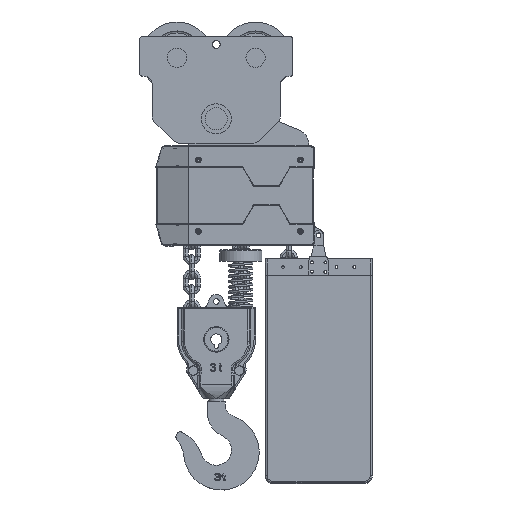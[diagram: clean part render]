
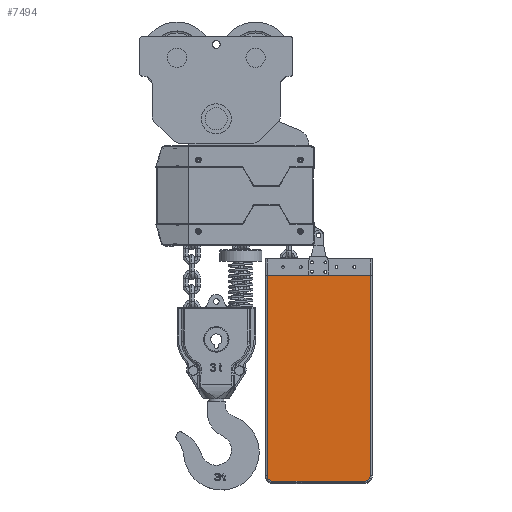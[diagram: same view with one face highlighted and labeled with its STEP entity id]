
A CAD part, top view. The second image highlights one B-rep face of the part: STEP entity #7494.
In plain terms, the highlighted planar face has unit normal (0, 0, 1).
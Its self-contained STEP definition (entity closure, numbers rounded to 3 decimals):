
#4910=CIRCLE('',#57358,11.);
#4911=CIRCLE('',#57359,11.);
#7494=ADVANCED_FACE('',(#12006),#10789,.T.);
#10789=PLANE('',#57360);
#12006=FACE_OUTER_BOUND('',#14879,.T.);
#14879=EDGE_LOOP('',(#18997,#18998,#18999,#19000,#19001,#19002));
#18997=ORIENTED_EDGE('',*,*,#40281,.T.);
#18998=ORIENTED_EDGE('',*,*,#40282,.T.);
#18999=ORIENTED_EDGE('',*,*,#40283,.T.);
#19000=ORIENTED_EDGE('',*,*,#40284,.T.);
#19001=ORIENTED_EDGE('',*,*,#40285,.T.);
#19002=ORIENTED_EDGE('',*,*,#40286,.T.);
#35138=VERTEX_POINT('',#84647);
#35139=VERTEX_POINT('',#84648);
#35140=VERTEX_POINT('',#84650);
#35141=VERTEX_POINT('',#84652);
#35142=VERTEX_POINT('',#84654);
#35143=VERTEX_POINT('',#84656);
#40281=EDGE_CURVE('',#35138,#35139,#48364,.T.);
#40282=EDGE_CURVE('',#35139,#35140,#48365,.T.);
#40283=EDGE_CURVE('',#35140,#35141,#48366,.T.);
#40284=EDGE_CURVE('',#35141,#35142,#4910,.T.);
#40285=EDGE_CURVE('',#35142,#35143,#48367,.T.);
#40286=EDGE_CURVE('',#35143,#35138,#4911,.T.);
#48364=LINE('',#84646,#52791);
#48365=LINE('',#84649,#52792);
#48366=LINE('',#84651,#52793);
#48367=LINE('',#84655,#52794);
#52791=VECTOR('',#63390,1.);
#52792=VECTOR('',#63391,1.);
#52793=VECTOR('',#63392,1.);
#52794=VECTOR('',#63395,1.);
#57358=AXIS2_PLACEMENT_3D('',#84653,#63393,#63394);
#57359=AXIS2_PLACEMENT_3D('',#84657,#63396,#63397);
#57360=AXIS2_PLACEMENT_3D('',#84658,#63398,#63399);
#63390=DIRECTION('',(0.,1.,0.));
#63391=DIRECTION('',(-1.,0.,0.));
#63392=DIRECTION('',(0.,-1.,0.));
#63393=DIRECTION('',(0.,0.,1.));
#63394=DIRECTION('',(1.,0.,0.));
#63395=DIRECTION('',(1.,0.,0.));
#63396=DIRECTION('',(0.,0.,1.));
#63397=DIRECTION('',(1.,0.,0.));
#63398=DIRECTION('',(0.,0.,1.));
#63399=DIRECTION('',(-1.,0.,0.));
#84646=CARTESIAN_POINT('',(1920.462,56.396,196.375));
#84647=CARTESIAN_POINT('',(1920.462,-249.604,196.375));
#84648=CARTESIAN_POINT('',(1920.462,143.396,196.375));
#84649=CARTESIAN_POINT('',(1744.812,143.396,196.375));
#84650=CARTESIAN_POINT('',(1718.662,143.396,196.375));
#84651=CARTESIAN_POINT('',(1718.662,56.396,196.375));
#84652=CARTESIAN_POINT('',(1718.662,-249.604,196.375));
#84653=CARTESIAN_POINT('',(1729.662,-249.604,196.375));
#84654=CARTESIAN_POINT('',(1729.662,-260.604,196.375));
#84655=CARTESIAN_POINT('',(1909.462,-260.604,196.375));
#84656=CARTESIAN_POINT('',(1909.462,-260.604,196.375));
#84657=CARTESIAN_POINT('',(1909.462,-249.604,196.375));
#84658=CARTESIAN_POINT('',(1744.812,56.396,196.375));
